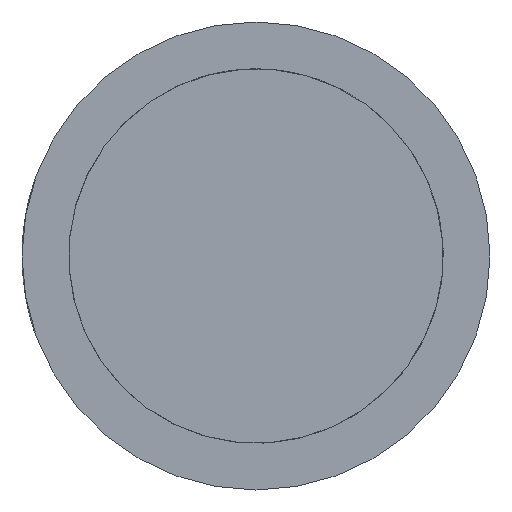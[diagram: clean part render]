
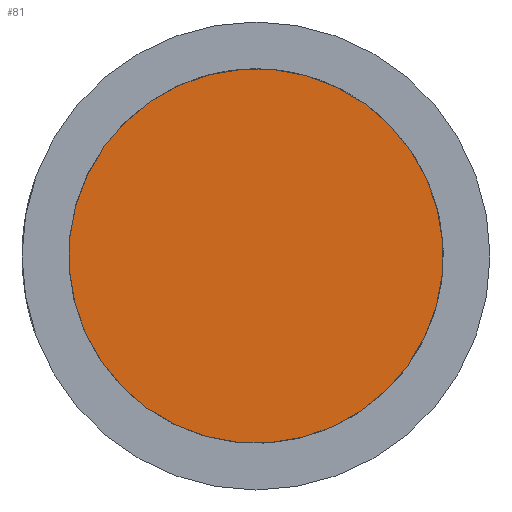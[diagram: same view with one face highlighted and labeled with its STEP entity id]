
A CAD part, left-side view. The second image highlights one B-rep face of the part: STEP entity #81.
In plain terms, the highlighted planar face has unit normal (-1, 0, 0).
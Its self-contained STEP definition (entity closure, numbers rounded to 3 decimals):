
#81 = ADVANCED_FACE( '', ( #100 ), #101, .T. );
#100 = FACE_OUTER_BOUND( '', #119, .T. );
#101 = PLANE( '', #120 );
#119 = EDGE_LOOP( '', ( #150 ) );
#120 = AXIS2_PLACEMENT_3D( '', #151, #152, #153 );
#150 = ORIENTED_EDGE( '', *, *, #159, .T. );
#151 = CARTESIAN_POINT( '', ( -24.9, 0., 0. ) );
#152 = DIRECTION( '', ( -1., 0., 0. ) );
#153 = DIRECTION( '', ( 0., -0.565, -0.825 ) );
#159 = EDGE_CURVE( '', #170, #170, #171, .T. );
#170 = VERTEX_POINT( '', #220 );
#171 = CIRCLE( '', #221, 1.2 );
#220 = CARTESIAN_POINT( '', ( -24.9, 0.678, 0.99 ) );
#221 = AXIS2_PLACEMENT_3D( '', #231, #232, #233 );
#231 = CARTESIAN_POINT( '', ( -24.9, 0., 0. ) );
#232 = DIRECTION( '', ( -1., 0., 0. ) );
#233 = DIRECTION( '', ( 0., 0.565, 0.825 ) );
